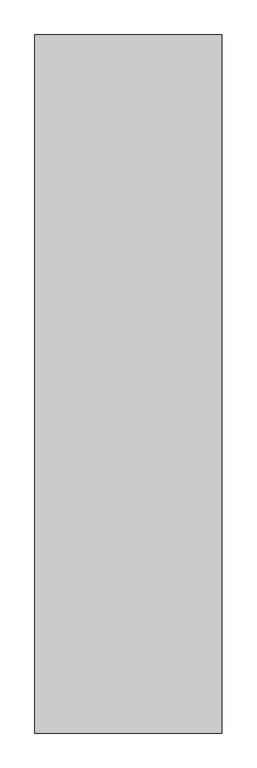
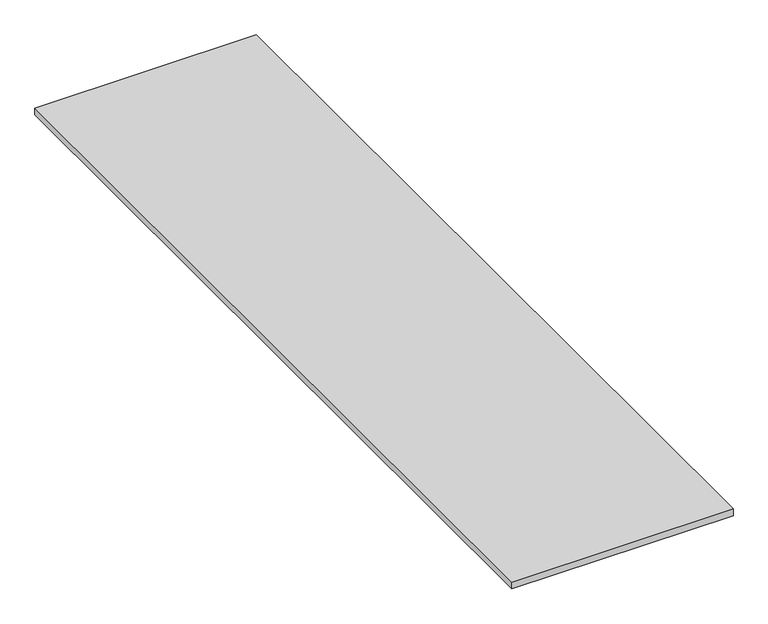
"""IFC4 building model written with IfcOpenShell, lengths in millimetres: furniture geometry, Furniture_Other-Furniture_Molteni&C_Prime_Panels : Furniture_Other-Furniture_Molteni&C_Prime_Panels."""

from ifc_helpers import new_model, si_unit, origin, origin_with_axes, place, context, project, spatial, polyline, outline, extrude, source, transform, mapped, element, save


def furniture_f227b24d(model_context):
    return source(origin(), model_context, "Body", "SweptSolid", [
        extrude(outline(polyline([(-297.5, -1111.5), (-297.5, 1111.5), (297.5, 1111.5), (297.5, -1111.5), (-297.5, -1111.5)])), origin_with_axes(), (0.0, 0.0, 1.0), 19.0),
    ])


if __name__ == "__main__":
    model = new_model("IFC4")
    model_context = context("Model", 3, world=origin())
    ifc_project = project(units=[si_unit("LENGTHUNIT", "METRE", prefix="MILLI")], contexts=[model_context])
    site = spatial("IfcSite", under=ifc_project)
    building = spatial("IfcBuilding", under=site)
    placement = place(None, origin())
    furniture_shape = furniture_f227b24d(model_context)
    element("IfcFurniture", 1, ObjectType="Furniture_Other-Furniture_Molteni&C_Prime_Panels : Furniture_Other-Furniture_Molteni&C_Prime_Panels", at=placement, inside=building, context=model_context, shape_type="MappedRepresentation", body=[
        mapped(furniture_shape, transform((0.0, 0.0, 0.0), x_axis=(1.0, 0.0, 0.0), y_axis=(0.0, 1.0, 0.0), z_axis=(0.0, 0.0, 1.0))),
    ])
    save(model, "model.ifc")
